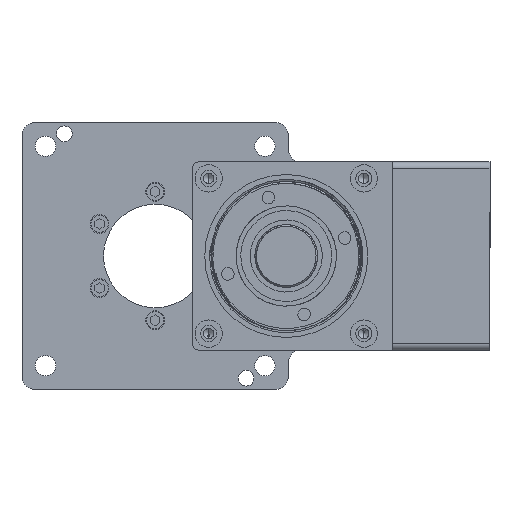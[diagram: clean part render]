
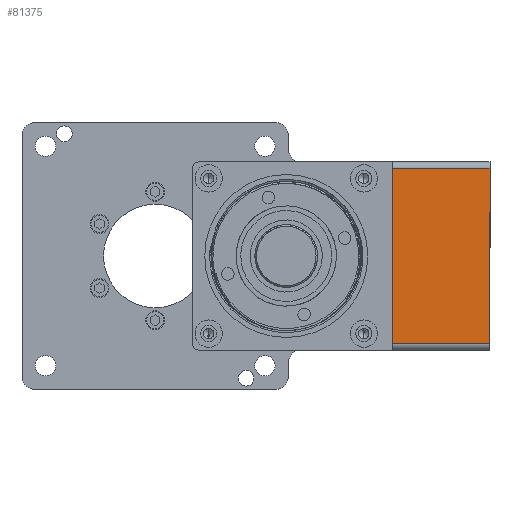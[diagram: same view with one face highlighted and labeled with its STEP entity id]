
A CAD part, front view. The second image highlights one B-rep face of the part: STEP entity #81375.
In plain terms, the highlighted planar face has unit normal (0, -1, 0) as drawn and (0, 0, -1) by its records, which use the part's own axes.
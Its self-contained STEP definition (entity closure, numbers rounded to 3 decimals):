
#77565 = PLANE('',#77566);
#77566 = AXIS2_PLACEMENT_3D('',#77567,#77568,#77569);
#77567 = CARTESIAN_POINT('',(-55.842,-11.797,
    -31.266));
#77568 = DIRECTION('',(0.,1.,-0.));
#77569 = DIRECTION('',(1.,0.,0.));
#78778 = PLANE('',#78779);
#78779 = AXIS2_PLACEMENT_3D('',#78780,#78781,#78782);
#78780 = CARTESIAN_POINT('',(-55.842,-42.797,
    -31.266));
#78781 = DIRECTION('',(0.,1.,-0.));
#78782 = DIRECTION('',(1.,0.,0.));
#80941 = EDGE_CURVE('',#80942,#80944,#80946,.T.);
#80942 = VERTEX_POINT('',#80943);
#80943 = CARTESIAN_POINT('',(2.158,-11.797,
    -31.266));
#80944 = VERTEX_POINT('',#80945);
#80945 = CARTESIAN_POINT('',(-53.842,-11.797,
    -31.266));
#80946 = SURFACE_CURVE('',#80947,(#80951,#80958),.PCURVE_S1.);
#80947 = LINE('',#80948,#80949);
#80948 = CARTESIAN_POINT('',(-55.842,-11.797,
    -31.266));
#80949 = VECTOR('',#80950,1.);
#80950 = DIRECTION('',(-1.,-0.,0.));
#80951 = PCURVE('',#77565,#80952);
#80952 = DEFINITIONAL_REPRESENTATION('',(#80953),#80957);
#80953 = LINE('',#80954,#80955);
#80954 = CARTESIAN_POINT('',(0.,0.));
#80955 = VECTOR('',#80956,1.);
#80956 = DIRECTION('',(-1.,0.));
#80957 = ( GEOMETRIC_REPRESENTATION_CONTEXT(2) 
PARAMETRIC_REPRESENTATION_CONTEXT() REPRESENTATION_CONTEXT('2D SPACE',''
  ) );
#80958 = PCURVE('',#80959,#80964);
#80959 = PLANE('',#80960);
#80960 = AXIS2_PLACEMENT_3D('',#80961,#80962,#80963);
#80961 = CARTESIAN_POINT('',(4.158,-42.797,
    -31.266));
#80962 = DIRECTION('',(0.,-0.,1.));
#80963 = DIRECTION('',(-0.,1.,0.));
#80964 = DEFINITIONAL_REPRESENTATION('',(#80965),#80969);
#80965 = LINE('',#80966,#80967);
#80966 = CARTESIAN_POINT('',(31.,60.));
#80967 = VECTOR('',#80968,1.);
#80968 = DIRECTION('',(0.,1.));
#80969 = ( GEOMETRIC_REPRESENTATION_CONTEXT(2) 
PARAMETRIC_REPRESENTATION_CONTEXT() REPRESENTATION_CONTEXT('2D SPACE',''
  ) );
#80988 = CYLINDRICAL_SURFACE('',#80989,2.);
#80989 = AXIS2_PLACEMENT_3D('',#80990,#80991,#80992);
#80990 = CARTESIAN_POINT('',(-53.842,-42.797,
    -29.266));
#80991 = DIRECTION('',(0.,1.,-0.));
#80992 = DIRECTION('',(1.,0.,0.));
#81147 = CYLINDRICAL_SURFACE('',#81148,2.);
#81148 = AXIS2_PLACEMENT_3D('',#81149,#81150,#81151);
#81149 = CARTESIAN_POINT('',(2.158,-42.797,
    -29.266));
#81150 = DIRECTION('',(0.,1.,-0.));
#81151 = DIRECTION('',(1.,0.,0.));
#81308 = EDGE_CURVE('',#80944,#81309,#81311,.T.);
#81309 = VERTEX_POINT('',#81310);
#81310 = CARTESIAN_POINT('',(-53.842,-42.797,
    -31.266));
#81311 = SURFACE_CURVE('',#81312,(#81316,#81323),.PCURVE_S1.);
#81312 = LINE('',#81313,#81314);
#81313 = CARTESIAN_POINT('',(-53.842,-42.797,
    -31.266));
#81314 = VECTOR('',#81315,1.);
#81315 = DIRECTION('',(-0.,-1.,0.));
#81316 = PCURVE('',#80988,#81317);
#81317 = DEFINITIONAL_REPRESENTATION('',(#81318),#81322);
#81318 = LINE('',#81319,#81320);
#81319 = CARTESIAN_POINT('',(1.571,0.));
#81320 = VECTOR('',#81321,1.);
#81321 = DIRECTION('',(0.,-1.));
#81322 = ( GEOMETRIC_REPRESENTATION_CONTEXT(2) 
PARAMETRIC_REPRESENTATION_CONTEXT() REPRESENTATION_CONTEXT('2D SPACE',''
  ) );
#81323 = PCURVE('',#80959,#81324);
#81324 = DEFINITIONAL_REPRESENTATION('',(#81325),#81329);
#81325 = LINE('',#81326,#81327);
#81326 = CARTESIAN_POINT('',(0.,58.));
#81327 = VECTOR('',#81328,1.);
#81328 = DIRECTION('',(-1.,-0.));
#81329 = ( GEOMETRIC_REPRESENTATION_CONTEXT(2) 
PARAMETRIC_REPRESENTATION_CONTEXT() REPRESENTATION_CONTEXT('2D SPACE',''
  ) );
#81375 = ADVANCED_FACE('',(#81376),#80959,.F.);
#81376 = FACE_BOUND('',#81377,.T.);
#81377 = EDGE_LOOP('',(#81378,#81401,#81422,#81423));
#81378 = ORIENTED_EDGE('',*,*,#81379,.F.);
#81379 = EDGE_CURVE('',#81380,#80942,#81382,.T.);
#81380 = VERTEX_POINT('',#81381);
#81381 = CARTESIAN_POINT('',(2.158,-42.797,
    -31.266));
#81382 = SURFACE_CURVE('',#81383,(#81387,#81394),.PCURVE_S1.);
#81383 = LINE('',#81384,#81385);
#81384 = CARTESIAN_POINT('',(2.158,-42.797,
    -31.266));
#81385 = VECTOR('',#81386,1.);
#81386 = DIRECTION('',(-0.,1.,0.));
#81387 = PCURVE('',#80959,#81388);
#81388 = DEFINITIONAL_REPRESENTATION('',(#81389),#81393);
#81389 = LINE('',#81390,#81391);
#81390 = CARTESIAN_POINT('',(0.,2.));
#81391 = VECTOR('',#81392,1.);
#81392 = DIRECTION('',(1.,0.));
#81393 = ( GEOMETRIC_REPRESENTATION_CONTEXT(2) 
PARAMETRIC_REPRESENTATION_CONTEXT() REPRESENTATION_CONTEXT('2D SPACE',''
  ) );
#81394 = PCURVE('',#81147,#81395);
#81395 = DEFINITIONAL_REPRESENTATION('',(#81396),#81400);
#81396 = LINE('',#81397,#81398);
#81397 = CARTESIAN_POINT('',(1.571,0.));
#81398 = VECTOR('',#81399,1.);
#81399 = DIRECTION('',(0.,1.));
#81400 = ( GEOMETRIC_REPRESENTATION_CONTEXT(2) 
PARAMETRIC_REPRESENTATION_CONTEXT() REPRESENTATION_CONTEXT('2D SPACE',''
  ) );
#81401 = ORIENTED_EDGE('',*,*,#81402,.F.);
#81402 = EDGE_CURVE('',#81309,#81380,#81403,.T.);
#81403 = SURFACE_CURVE('',#81404,(#81408,#81415),.PCURVE_S1.);
#81404 = LINE('',#81405,#81406);
#81405 = CARTESIAN_POINT('',(4.158,-42.797,
    -31.266));
#81406 = VECTOR('',#81407,1.);
#81407 = DIRECTION('',(1.,-0.,0.));
#81408 = PCURVE('',#80959,#81409);
#81409 = DEFINITIONAL_REPRESENTATION('',(#81410),#81414);
#81410 = LINE('',#81411,#81412);
#81411 = CARTESIAN_POINT('',(0.,0.));
#81412 = VECTOR('',#81413,1.);
#81413 = DIRECTION('',(0.,-1.));
#81414 = ( GEOMETRIC_REPRESENTATION_CONTEXT(2) 
PARAMETRIC_REPRESENTATION_CONTEXT() REPRESENTATION_CONTEXT('2D SPACE',''
  ) );
#81415 = PCURVE('',#78778,#81416);
#81416 = DEFINITIONAL_REPRESENTATION('',(#81417),#81421);
#81417 = LINE('',#81418,#81419);
#81418 = CARTESIAN_POINT('',(60.,0.));
#81419 = VECTOR('',#81420,1.);
#81420 = DIRECTION('',(1.,0.));
#81421 = ( GEOMETRIC_REPRESENTATION_CONTEXT(2) 
PARAMETRIC_REPRESENTATION_CONTEXT() REPRESENTATION_CONTEXT('2D SPACE',''
  ) );
#81422 = ORIENTED_EDGE('',*,*,#81308,.F.);
#81423 = ORIENTED_EDGE('',*,*,#80941,.F.);
